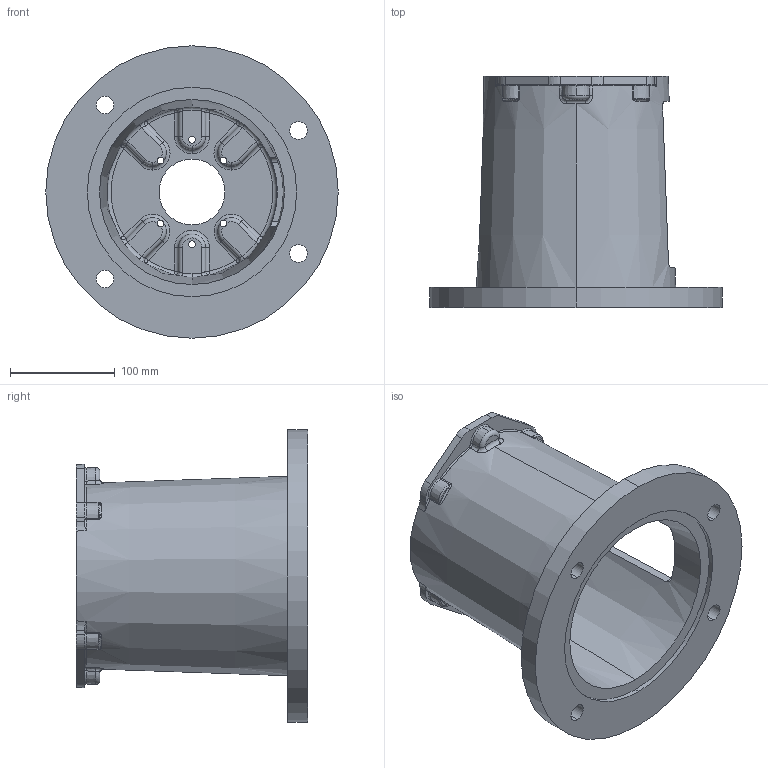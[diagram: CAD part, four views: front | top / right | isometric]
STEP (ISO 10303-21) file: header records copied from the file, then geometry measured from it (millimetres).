
FILE_DESCRIPTION (( 'STEP AP203' ), '1' );
FILE_NAME ('E7878663M.STEP', '2014-11-04T15:55:16', ( '' ), ( '' ), 'SwSTEP 2.0', 'SolidWorks 2014', '' );
FILE_SCHEMA (( 'CONFIG_CONTROL_DESIGN' ));
Length unit declared in the file: inch
Products named in the file (1): E7878663M
Bounding box: 279.4 x 220.73 x 279.4 mm (x, y, z)
Volume: 1667583.6 mm3; surface area: 355615.9 mm2
Topology: 1 solids, 1 shells, 346 faces, 884 edges, 527 vertices
Faces by surface type: torus 105, cylinder 86, bspline 64, plane 45, sphere 24, cone 22
Entity records: 13879 total; most frequent: CARTESIAN_POINT 5780, ORIENTED_EDGE 1744, DIRECTION 1714, EDGE_CURVE 872, AXIS2_PLACEMENT_3D 777, VERTEX_POINT 527, CIRCLE 494, EDGE_LOOP 369
